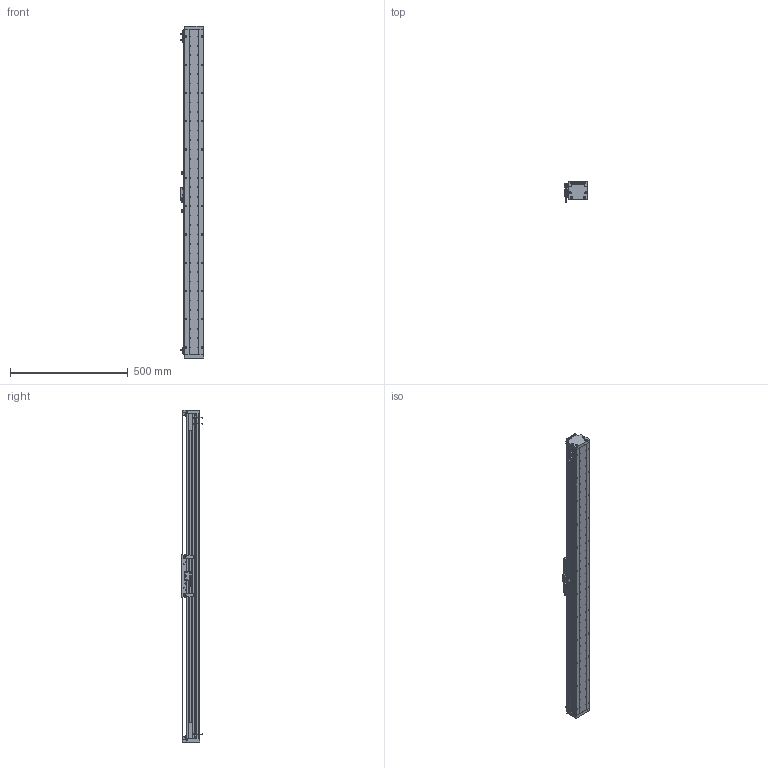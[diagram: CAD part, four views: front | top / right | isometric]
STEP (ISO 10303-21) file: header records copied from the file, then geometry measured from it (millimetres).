
FILE_DESCRIPTION (( 'STEP AP203' ), '1' );
FILE_NAME ('DA-A82-B2-T1160-C010-0.2 眻盄萇儂.STEP', '2025-08-13T03:08:55', ( '' ), ( '' ), 'SwSTEP 2.0', 'SolidWorks 2019', '' );
FILE_SCHEMA (( 'CONFIG_CONTROL_DESIGN' ));
Length unit declared in the file: millimetre
Products named in the file (23): 复件 DA95-B2-GT-00 滑块钢轨^AU82-M-00 一体化滑动台板; IU-AU82-L 菁釱絳寢; 葩璃 DA82-B2-DP-00 結え^AU82-M 幗紩賑怢; 复件 纯铜油杯 6x6mm^AU82-M 滚珠滑台; AU82-HT-M-00 賑雄怢啣; 葩璃 葩璃 17517-0000-002-00 傷啣^DA-A82-B2-T-C010-0.2; 复件 复件 DA82-XJ-00 缓冲橡胶^DA-A82-B2-T-C010-0.2; DA-A60-GYP-DMT-00 光电感应片^DA-A82-B2-T-C010-0.2(默认); AU82-M-00 珨极趙賑雄怢啣; 复件 复件 复件 DA82 钢带盖板^DA-A82-B2-T-C010-0.2(默认); 葩璃 DMT-010 1米m 0.2M^DA-A82-B2-T-C010-0.2; 葩璃 XD-U-02  棠掑喜^DA-A82-B2-T-C010-0.2; ｸｴｼ BKM02-W040-C1-TP-DA-3.0 ﾖｱﾏﾟｵ扈巐ｯﾗﾓ^DA-A82-B2-T-C010-0.2; 葩璃 DA60-DMT-DTJ-00 黍杅芛盓殤^DA-A82-B2-T-C010-0.2; 复件 复件 17517-0000-003-00 钢带拉块^DA-A82-B2-T-C010-0.2; 复件 DA95-GT-T-00 底座钢轨^IU-AU82-L 底座导轨; AU82-M 幗紩賑怢; 葩璃 鞠褒情蹟譫 M3^DA-A82-B2-T-C010-0.2; DA-A82-B2-T1160-C010-0.2 眻盄萇儂; 复件 复件 17517-0000-004-00  钢带压块^DA-A82-B2-T-C010-0.2(默认); 葩璃 PM-T45^DA-A82-B2-T-C010-0.2; IU-AU82-L-00 菁釱(L1380); 葩璃 BKM01-W040-TRL^DA-A82-B2-T-C010-0.2
Assembly tree (40 placements, depth 4):
  DA-A82-B2-T1160-C010-0.2 眻盄萇儂
    IU-AU82-L 菁釱絳寢
      IU-AU82-L-00 菁釱(L1380)
      复件 DA95-GT-T-00 底座钢轨^IU-AU82-L 底座导轨  x2
    AU82-M 幗紩賑怢
      AU82-M-00 珨极趙賑雄怢啣
        AU82-HT-M-00 賑雄怢啣
        复件 DA95-B2-GT-00 滑块钢轨^AU82-M-00 一体化滑动台板  x4
      葩璃 DA82-B2-DP-00 結え^AU82-M 幗紩賑怢  x2
      复件 纯铜油杯 6x6mm^AU82-M 滚珠滑台  x2
    葩璃 DA60-DMT-DTJ-00 黍杅芛盓殤^DA-A82-B2-T-C010-0.2
    葩璃 DMT-010 1米m 0.2M^DA-A82-B2-T-C010-0.2
    DA-A60-GYP-DMT-00 光电感应片^DA-A82-B2-T-C010-0.2(默认)  x2
    ｸｴｼ BKM02-W040-C1-TP-DA-3.0 ﾖｱﾏﾟｵ扈巐ｯﾗﾓ^DA-A82-B2-T-C010-0.2
    复件 复件 17517-0000-003-00 钢带拉块^DA-A82-B2-T-C010-0.2  x2
    复件 复件 DA82-XJ-00 缓冲橡胶^DA-A82-B2-T-C010-0.2  x2
    复件 复件 17517-0000-004-00  钢带压块^DA-A82-B2-T-C010-0.2(默认)  x2
    葩璃 葩璃 17517-0000-002-00 傷啣^DA-A82-B2-T-C010-0.2  x2
    复件 复件 复件 DA82 钢带盖板^DA-A82-B2-T-C010-0.2(默认)
    葩璃 BKM01-W040-TRL^DA-A82-B2-T-C010-0.2
    葩璃 PM-T45^DA-A82-B2-T-C010-0.2  x3
    葩璃 XD-U-02  棠掑喜^DA-A82-B2-T-C010-0.2
    葩璃 鞠褒情蹟譫 M3^DA-A82-B2-T-C010-0.2  x6
Bounding box: 98.95 x 87.2 x 1408 mm (x, y, z)
Volume: 4135047.9 mm3; surface area: 1250840.8 mm2
Topology: 44 solids, 68 shells, 2313 faces, 6092 edges, 3834 vertices
Faces by surface type: cylinder 1113, plane 910, cone 272, bspline 8, torus 8, sphere 2
Entity records: 63023 total; most frequent: CARTESIAN_POINT 14123, DIRECTION 9871, ORIENTED_EDGE 9288, EDGE_CURVE 4644, AXIS2_PLACEMENT_3D 3767, VERTEX_POINT 3018, EDGE_LOOP 2362, LINE 2337
